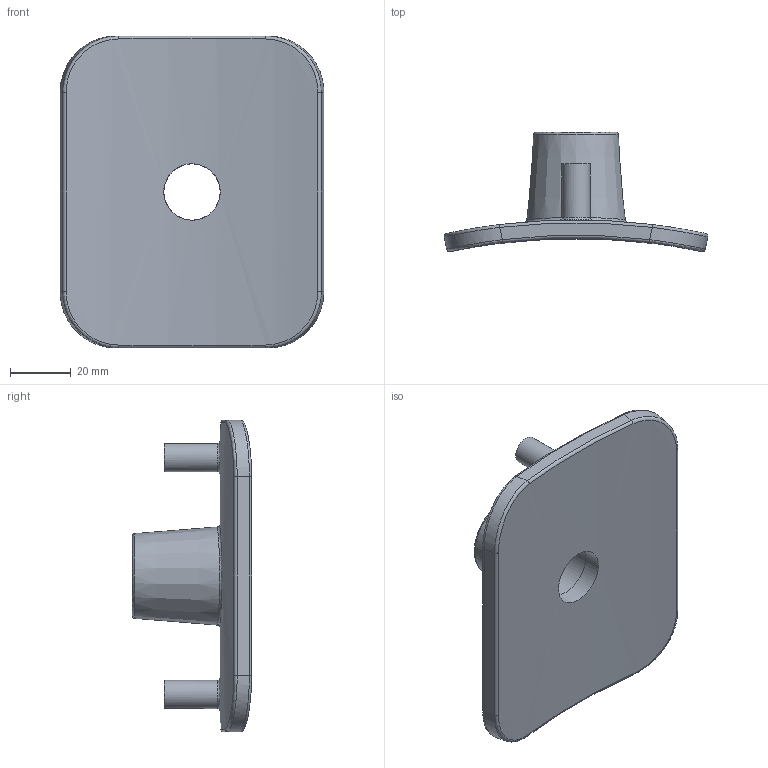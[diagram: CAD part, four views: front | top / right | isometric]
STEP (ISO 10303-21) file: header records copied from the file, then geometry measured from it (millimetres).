
FILE_DESCRIPTION(/* description */ ('PLASSON SENSOR ADAPTOR 1/2'''''),/* implementation_level */ '2;1');
FILE_NAME(/* name */ 'C:\Dropbox\KIMPROJECTS-Inventor\99-16-3568-Processing\ElectroFusion Fittings\24.01.19\493803\493803400005_493803900005.ipt.stp',/* time_stamp */ '2019-01-24T13:53:51+02:00',/* author */ ('KIM'),/* organization */ (''),/* preprocessor_version */ 'ST-DEVELOPER v15.6',/* originating_system */ 'Autodesk Inventor 2015',/* authorisation */ '');
FILE_SCHEMA (('AUTOMOTIVE_DESIGN { 1 0 10303 214 3 1 1 }'));
Length unit declared in the file: millimetre
Products named in the file (1): 493803400005_493803900005
Bounding box: 87.19 x 39.39 x 103 mm (x, y, z)
Volume: 65816 mm3; surface area: 24185.4 mm2
Topology: 1 solids, 1 shells, 39 faces, 84 edges, 50 vertices
Faces by surface type: cylinder 13, bspline 12, plane 7, torus 6, cone 1
Full cylindrical faces by diameter (mm): 9.316 x2, 18.631 x1
Entity records: 1752 total; most frequent: CARTESIAN_POINT 948, ORIENTED_EDGE 148, DIRECTION 139, EDGE_CURVE 74, AXIS2_PLACEMENT_3D 61, EDGE_LOOP 50, VERTEX_POINT 46, STYLED_ITEM 40
